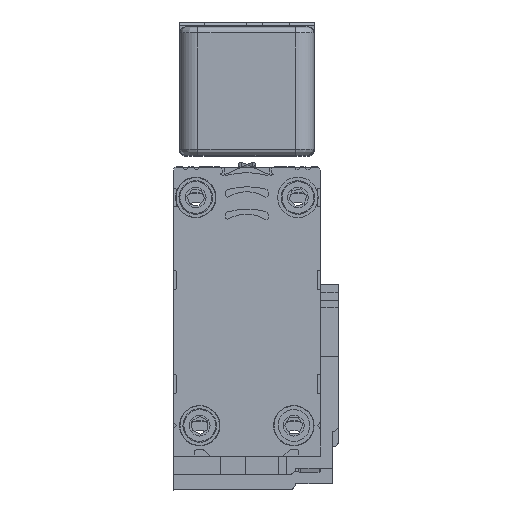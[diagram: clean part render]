
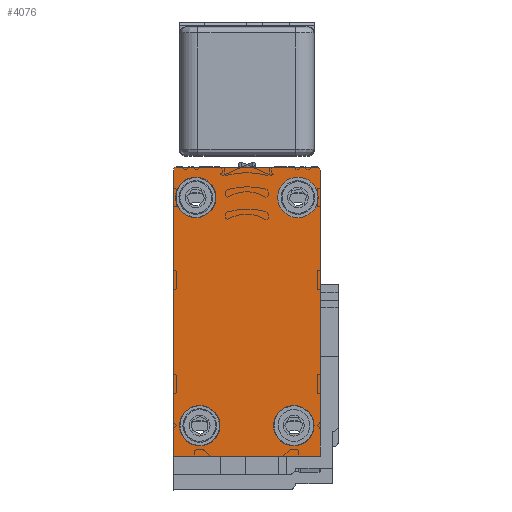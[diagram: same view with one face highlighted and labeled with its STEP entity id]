
A CAD part, top view. The second image highlights one B-rep face of the part: STEP entity #4076.
In plain terms, the highlighted planar face has unit normal (0, 0, 1).
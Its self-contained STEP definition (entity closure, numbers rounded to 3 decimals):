
#38 = CIRCLE ( 'NONE', #15315, 3.302 ) ;
#93 = DIRECTION ( 'NONE',  ( -1., 0., 0. ) ) ;
#112 = AXIS2_PLACEMENT_3D ( 'NONE', #28654, #15409, #2105 ) ;
#160 = VERTEX_POINT ( 'NONE', #26665 ) ;
#255 = EDGE_CURVE ( 'NONE', #23206, #573, #17564, .T. ) ;
#429 = DIRECTION ( 'NONE',  ( 0., 1., 0. ) ) ;
#573 = VERTEX_POINT ( 'NONE', #16741 ) ;
#947 = EDGE_CURVE ( 'NONE', #12309, #4716, #21674, .T. ) ;
#1140 = FACE_BOUND ( 'NONE', #19048, .T. ) ;
#1252 = DIRECTION ( 'NONE',  ( 0., 0., -1. ) ) ;
#1302 = CARTESIAN_POINT ( 'NONE',  ( -14.365, 21.401, 3185. ) ) ;
#1341 = VERTEX_POINT ( 'NONE', #4992 ) ;
#1535 = EDGE_CURVE ( 'NONE', #18975, #24804, #16855, .T. ) ;
#1855 = FACE_BOUND ( 'NONE', #8157, .T. ) ;
#1916 = ORIENTED_EDGE ( 'NONE', *, *, #12942, .T. ) ;
#2051 = ORIENTED_EDGE ( 'NONE', *, *, #10665, .T. ) ;
#2105 = DIRECTION ( 'NONE',  ( -1., 0., 0. ) ) ;
#2274 = EDGE_CURVE ( 'NONE', #24804, #23206, #5764, .T. ) ;
#2400 = CIRCLE ( 'NONE', #21949, 0.5 ) ;
#2437 = ORIENTED_EDGE ( 'NONE', *, *, #947, .T. ) ;
#2497 = ORIENTED_EDGE ( 'NONE', *, *, #13742, .F. ) ;
#2751 = LINE ( 'NONE', #22000, #19768 ) ;
#2781 = AXIS2_PLACEMENT_3D ( 'NONE', #26671, #13396, #93 ) ;
#3319 = CARTESIAN_POINT ( 'NONE',  ( 5.984, 7.11, 3185. ) ) ;
#3519 = DIRECTION ( 'NONE',  ( -1., 0., 0. ) ) ;
#3539 = CIRCLE ( 'NONE', #24648, 3.302 ) ;
#4076 = ADVANCED_FACE ( 'NONE', ( #1140, #7737, #18845, #1855, #24055 ), #9457, .T. ) ;
#4132 = VECTOR ( 'NONE', #14152, 1000. ) ;
#4258 = CIRCLE ( 'NONE', #20302, 3.302 ) ;
#4366 = DIRECTION ( 'NONE',  ( 0., 0., 1. ) ) ;
#4716 = VERTEX_POINT ( 'NONE', #14046 ) ;
#4907 = CARTESIAN_POINT ( 'NONE',  ( 1.676, -15.887, 3185. ) ) ;
#4978 = EDGE_CURVE ( 'NONE', #160, #1341, #3539, .T. ) ;
#4992 = CARTESIAN_POINT ( 'NONE',  ( -11.063, 21.401, 3185. ) ) ;
#4995 = AXIS2_PLACEMENT_3D ( 'NONE', #17653, #4366, #19868 ) ;
#5113 = CARTESIAN_POINT ( 'NONE',  ( -18.014, -20.888, 3185. ) ) ;
#5145 = ORIENTED_EDGE ( 'NONE', *, *, #21879, .T. ) ;
#5573 = CIRCLE ( 'NONE', #2781, 3.302 ) ;
#5764 = LINE ( 'NONE', #23608, #28671 ) ;
#5843 = DIRECTION ( 'NONE',  ( 0., 1., 0. ) ) ;
#5856 = CARTESIAN_POINT ( 'NONE',  ( 2.335, 21.401, 3185. ) ) ;
#6240 = CARTESIAN_POINT ( 'NONE',  ( -17.017, -15.887, 3185. ) ) ;
#6415 = CARTESIAN_POINT ( 'NONE',  ( 5.984, -20.888, 3185. ) ) ;
#7103 = DIRECTION ( 'NONE',  ( -1., 0., 0. ) ) ;
#7310 = DIRECTION ( 'NONE',  ( -1., 0., 0. ) ) ;
#7737 = FACE_BOUND ( 'NONE', #20279, .T. ) ;
#8100 = DIRECTION ( 'NONE',  ( -1., 0., 0. ) ) ;
#8157 = EDGE_LOOP ( 'NONE', ( #13851, #14091 ) ) ;
#9157 = VERTEX_POINT ( 'NONE', #21315 ) ;
#9161 = CIRCLE ( 'NONE', #27537, 3.302 ) ;
#9298 = CARTESIAN_POINT ( 'NONE',  ( -13.714, -15.887, 3185. ) ) ;
#9457 = PLANE ( 'NONE',  #11434 ) ;
#9598 = VERTEX_POINT ( 'NONE', #15533 ) ;
#9888 = VECTOR ( 'NONE', #24938, 1000. ) ;
#10665 = EDGE_CURVE ( 'NONE', #9598, #13754, #16871, .T. ) ;
#10752 = ORIENTED_EDGE ( 'NONE', *, *, #4978, .T. ) ;
#10797 = CARTESIAN_POINT ( 'NONE',  ( 5.984, 25.871, 3185. ) ) ;
#10861 = DIRECTION ( 'NONE',  ( 0., 0., -1. ) ) ;
#10949 = VECTOR ( 'NONE', #19722, 1000. ) ;
#11110 = EDGE_CURVE ( 'NONE', #17200, #19698, #9161, .T. ) ;
#11434 = AXIS2_PLACEMENT_3D ( 'NONE', #5113, #20606, #7310 ) ;
#11529 = DIRECTION ( 'NONE',  ( -1., 0., 0. ) ) ;
#12309 = VERTEX_POINT ( 'NONE', #18302 ) ;
#12942 = EDGE_CURVE ( 'NONE', #1341, #160, #5573, .T. ) ;
#13012 = EDGE_LOOP ( 'NONE', ( #28323, #26174 ) ) ;
#13396 = DIRECTION ( 'NONE',  ( 0., 0., -1. ) ) ;
#13742 = EDGE_CURVE ( 'NONE', #12309, #14925, #2400, .T. ) ;
#13746 = DIRECTION ( 'NONE',  ( 0., 0., -1. ) ) ;
#13754 = VERTEX_POINT ( 'NONE', #24789 ) ;
#13851 = ORIENTED_EDGE ( 'NONE', *, *, #11110, .T. ) ;
#14046 = CARTESIAN_POINT ( 'NONE',  ( -18.014, -20.888, 3185. ) ) ;
#14091 = ORIENTED_EDGE ( 'NONE', *, *, #17561, .T. ) ;
#14152 = DIRECTION ( 'NONE',  ( -1., 0., 0. ) ) ;
#14163 = ORIENTED_EDGE ( 'NONE', *, *, #19858, .T. ) ;
#14566 = CARTESIAN_POINT ( 'NONE',  ( 2.335, 21.401, 3185. ) ) ;
#14925 = VERTEX_POINT ( 'NONE', #21081 ) ;
#15200 = ORIENTED_EDGE ( 'NONE', *, *, #1535, .T. ) ;
#15315 = AXIS2_PLACEMENT_3D ( 'NONE', #4907, #20404, #7103 ) ;
#15337 = DIRECTION ( 'NONE',  ( 1., 0., 0. ) ) ;
#15409 = DIRECTION ( 'NONE',  ( 0., 0., -1. ) ) ;
#15533 = CARTESIAN_POINT ( 'NONE',  ( 5.637, 21.401, 3185. ) ) ;
#16037 = CARTESIAN_POINT ( 'NONE',  ( -18.014, 25.871, 3185. ) ) ;
#16195 = EDGE_CURVE ( 'NONE', #4716, #18975, #2751, .T. ) ;
#16533 = CIRCLE ( 'NONE', #112, 3.302 ) ;
#16741 = CARTESIAN_POINT ( 'NONE',  ( 5.485, 26.371, 3185. ) ) ;
#16776 = AXIS2_PLACEMENT_3D ( 'NONE', #14566, #1252, #16802 ) ;
#16802 = DIRECTION ( 'NONE',  ( -1., 0., 0. ) ) ;
#16855 = LINE ( 'NONE', #6415, #10949 ) ;
#16860 = DIRECTION ( 'NONE',  ( 0., 0., -1. ) ) ;
#16871 = CIRCLE ( 'NONE', #16776, 3.302 ) ;
#17200 = VERTEX_POINT ( 'NONE', #6240 ) ;
#17561 = EDGE_CURVE ( 'NONE', #19698, #17200, #16533, .T. ) ;
#17563 = CARTESIAN_POINT ( 'NONE',  ( 5.984, -20.888, 3185. ) ) ;
#17564 = CIRCLE ( 'NONE', #4995, 0.5 ) ;
#17653 = CARTESIAN_POINT ( 'NONE',  ( 5.485, 25.871, 3185. ) ) ;
#18302 = CARTESIAN_POINT ( 'NONE',  ( -18.014, 25.871, 3185. ) ) ;
#18845 = FACE_BOUND ( 'NONE', #13012, .T. ) ;
#18975 = VERTEX_POINT ( 'NONE', #17563 ) ;
#19048 = EDGE_LOOP ( 'NONE', ( #10752, #1916 ) ) ;
#19445 = EDGE_CURVE ( 'NONE', #23220, #9157, #20929, .T. ) ;
#19698 = VERTEX_POINT ( 'NONE', #27508 ) ;
#19722 = DIRECTION ( 'NONE',  ( 0., 1., 0. ) ) ;
#19768 = VECTOR ( 'NONE', #15337, 1000. ) ;
#19858 = EDGE_CURVE ( 'NONE', #13754, #9598, #4258, .T. ) ;
#19868 = DIRECTION ( 'NONE',  ( 0., 1., 0. ) ) ;
#20279 = EDGE_LOOP ( 'NONE', ( #14163, #2051 ) ) ;
#20302 = AXIS2_PLACEMENT_3D ( 'NONE', #5856, #21388, #8100 ) ;
#20404 = DIRECTION ( 'NONE',  ( 0., 0., -1. ) ) ;
#20606 = DIRECTION ( 'NONE',  ( 0., 0., 1. ) ) ;
#20929 = CIRCLE ( 'NONE', #22892, 3.302 ) ;
#21081 = CARTESIAN_POINT ( 'NONE',  ( -17.514, 26.371, 3185. ) ) ;
#21112 = LINE ( 'NONE', #27421, #4132 ) ;
#21315 = CARTESIAN_POINT ( 'NONE',  ( 4.978, -15.887, 3185. ) ) ;
#21388 = DIRECTION ( 'NONE',  ( 0., 0., -1. ) ) ;
#21636 = EDGE_LOOP ( 'NONE', ( #15200, #26155, #23385, #5145, #2497, #2437, #25018 ) ) ;
#21674 = LINE ( 'NONE', #16037, #9888 ) ;
#21879 = EDGE_CURVE ( 'NONE', #573, #14925, #21112, .T. ) ;
#21949 = AXIS2_PLACEMENT_3D ( 'NONE', #27007, #13746, #429 ) ;
#22000 = CARTESIAN_POINT ( 'NONE',  ( -18.014, -20.888, 3185. ) ) ;
#22024 = CARTESIAN_POINT ( 'NONE',  ( -1.626, -15.887, 3185. ) ) ;
#22892 = AXIS2_PLACEMENT_3D ( 'NONE', #24130, #10861, #26360 ) ;
#23206 = VERTEX_POINT ( 'NONE', #10797 ) ;
#23220 = VERTEX_POINT ( 'NONE', #22024 ) ;
#23385 = ORIENTED_EDGE ( 'NONE', *, *, #255, .T. ) ;
#23608 = CARTESIAN_POINT ( 'NONE',  ( 5.984, 7.11, 3185. ) ) ;
#24055 = FACE_OUTER_BOUND ( 'NONE', #21636, .T. ) ;
#24130 = CARTESIAN_POINT ( 'NONE',  ( 1.676, -15.887, 3185. ) ) ;
#24499 = EDGE_CURVE ( 'NONE', #9157, #23220, #38, .T. ) ;
#24648 = AXIS2_PLACEMENT_3D ( 'NONE', #1302, #16860, #3519 ) ;
#24789 = CARTESIAN_POINT ( 'NONE',  ( -0.967, 21.401, 3185. ) ) ;
#24804 = VERTEX_POINT ( 'NONE', #3319 ) ;
#24823 = DIRECTION ( 'NONE',  ( 0., 0., -1. ) ) ;
#24938 = DIRECTION ( 'NONE',  ( 0., -1., 0. ) ) ;
#25018 = ORIENTED_EDGE ( 'NONE', *, *, #16195, .T. ) ;
#26155 = ORIENTED_EDGE ( 'NONE', *, *, #2274, .T. ) ;
#26174 = ORIENTED_EDGE ( 'NONE', *, *, #24499, .T. ) ;
#26360 = DIRECTION ( 'NONE',  ( -1., 0., 0. ) ) ;
#26665 = CARTESIAN_POINT ( 'NONE',  ( -17.667, 21.401, 3185. ) ) ;
#26671 = CARTESIAN_POINT ( 'NONE',  ( -14.365, 21.401, 3185. ) ) ;
#27007 = CARTESIAN_POINT ( 'NONE',  ( -17.514, 25.871, 3185. ) ) ;
#27421 = CARTESIAN_POINT ( 'NONE',  ( 5.485, 26.371, 3185. ) ) ;
#27508 = CARTESIAN_POINT ( 'NONE',  ( -10.412, -15.887, 3185. ) ) ;
#27537 = AXIS2_PLACEMENT_3D ( 'NONE', #9298, #24823, #11529 ) ;
#28323 = ORIENTED_EDGE ( 'NONE', *, *, #19445, .T. ) ;
#28654 = CARTESIAN_POINT ( 'NONE',  ( -13.714, -15.887, 3185. ) ) ;
#28671 = VECTOR ( 'NONE', #5843, 1000. ) ;
